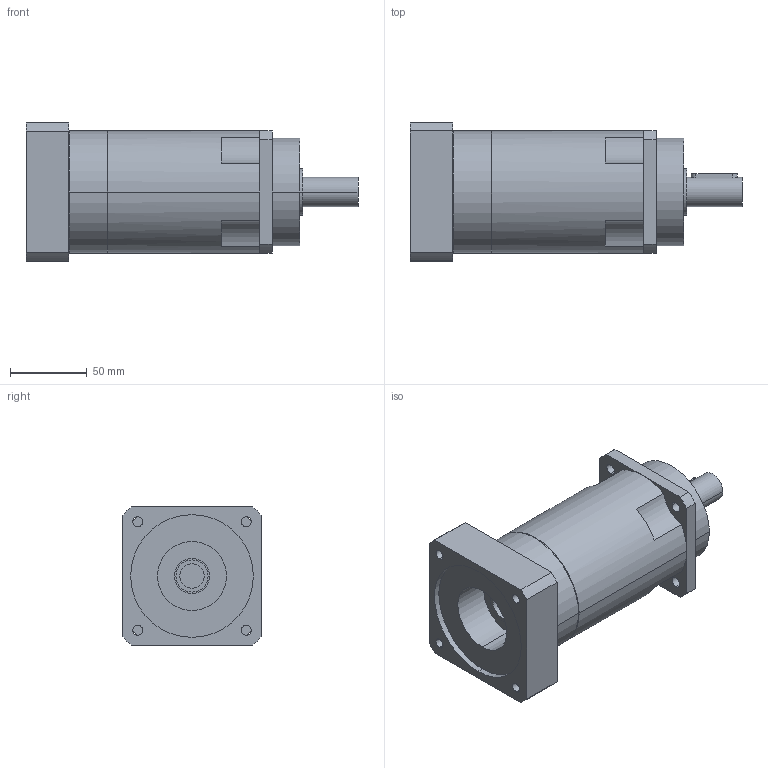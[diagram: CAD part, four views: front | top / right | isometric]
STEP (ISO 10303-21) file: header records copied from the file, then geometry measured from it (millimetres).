
FILE_DESCRIPTION(('CoCreate Modeling STEP Export'),'2;1');
FILE_NAME('GPR100_ig-48-64-80-100-120-144-180-216_19_B5_15.87_P28.stp','2014-08-26T11:55:24',(''),(''),'CoCreate Modeling STEP processor for AP214 (Solid Model)','CoCreate Modeling 16.00C 25-Feb-2009 (C) Parametric Technology GmbH','');
FILE_SCHEMA(('AUTOMOTIVE_DESIGN { 1 0 10303 214 1 1 1 1 }'));
Length unit declared in the file: millimetre
Products named in the file (2): GPR100_ig-48-64-80-100-120-144-180-216_19_B5_15.87_P28
Assembly tree (1 placements, depth 2):
  GPR100_ig-48-64-80-100-120-144-180-216_19_B5_15.87_P28
    GPR100_ig-48-64-80-100-120-144-180-216_19_B5_15.87_P28
Bounding box: 216.4 x 90 x 90 mm (x, y, z)
Volume: 905609.7 mm3; surface area: 78835.4 mm2
Topology: 1 solids, 1 shells, 89 faces, 244 edges, 166 vertices
Faces by surface type: cylinder 52, plane 31, cone 6
Entity records: 2597 total; most frequent: ORIENTED_EDGE 484, CARTESIAN_POINT 471, DIRECTION 386, EDGE_CURVE 242, VERTEX_POINT 166, AXIS2_PLACEMENT_3D 145, EDGE_LOOP 116, VECTOR 96
